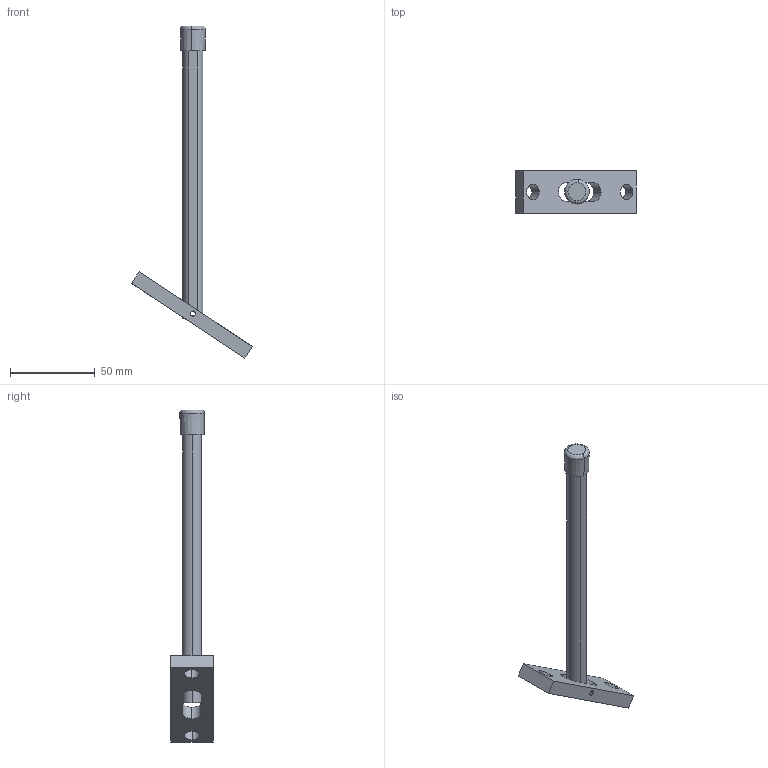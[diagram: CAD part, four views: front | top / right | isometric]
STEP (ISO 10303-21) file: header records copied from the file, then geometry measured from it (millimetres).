
FILE_DESCRIPTION (( 'STEP AP214' ), '1' );
FILE_NAME ('AFPOCC.STEP', '2017-04-06T08:05:24', ( '' ), ( '' ), 'SwSTEP 2.0', 'SolidWorks 2016', '' );
FILE_SCHEMA (( 'AUTOMOTIVE_DESIGN' ));
Length unit declared in the file: millimetre
Products named in the file (4): PO-25X8X80; EMBOUT-CC-D12; AF12-8+trou Diam 3_120; AFPOCC
Assembly tree (3 placements, depth 2):
  AFPOCC
    AF12-8+trou Diam 3_120
    EMBOUT-CC-D12
    PO-25X8X80
Bounding box: 71.21 x 25 x 195.48 mm (x, y, z)
Volume: 25427.7 mm3; surface area: 18592.9 mm2
Topology: 3 solids, 3 shells, 96 faces, 270 edges, 179 vertices
Faces by surface type: cylinder 48, plane 35, cone 11, torus 2
Entity records: 4090 total; most frequent: CARTESIAN_POINT 715, ORIENTED_EDGE 540, DIRECTION 535, EDGE_CURVE 270, AXIS2_PLACEMENT_3D 199, VERTEX_POINT 179, LINE 137, VECTOR 137
